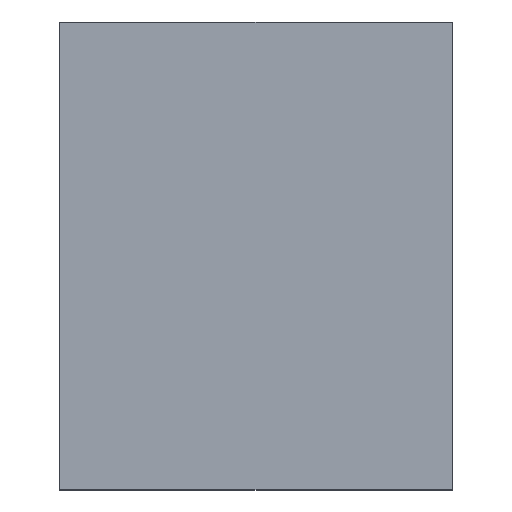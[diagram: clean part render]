
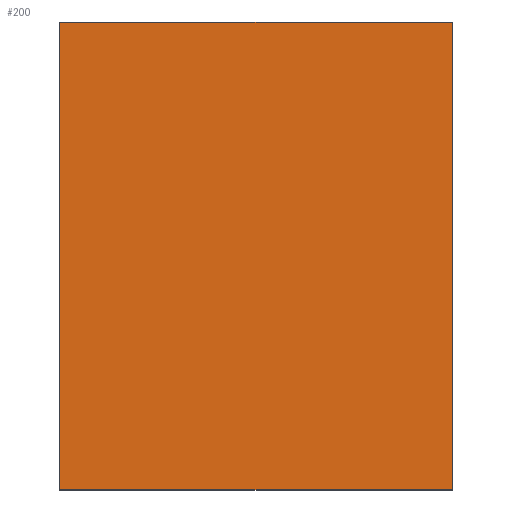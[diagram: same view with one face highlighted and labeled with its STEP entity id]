
A CAD part, top view. The second image highlights one B-rep face of the part: STEP entity #200.
In plain terms, the highlighted planar face has unit normal (0, 0, 1).
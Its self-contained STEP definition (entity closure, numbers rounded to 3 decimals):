
#6 = EDGE_CURVE ( 'NONE', #40, #53, #126, .T. ) ;
#8 = AXIS2_PLACEMENT_3D ( 'NONE', #78, #71, #70 ) ;
#11 = EDGE_CURVE ( 'NONE', #53, #39, #147, .T. ) ;
#12 = EDGE_CURVE ( 'NONE', #42, #40, #135, .T. ) ;
#23 = EDGE_CURVE ( 'NONE', #39, #42, #125, .T. ) ;
#39 = VERTEX_POINT ( 'NONE', #91 ) ;
#40 = VERTEX_POINT ( 'NONE', #105 ) ;
#42 = VERTEX_POINT ( 'NONE', #89 ) ;
#45 = CARTESIAN_POINT ( 'NONE',  ( -201., 0., 6. ) ) ;
#53 = VERTEX_POINT ( 'NONE', #87 ) ;
#70 = DIRECTION ( 'NONE',  ( 0., 1., 0. ) ) ;
#71 = DIRECTION ( 'NONE',  ( 0., 0., -1. ) ) ;
#78 = CARTESIAN_POINT ( 'NONE',  ( -201., 479., 6. ) ) ;
#81 = PLANE ( 'NONE',  #8 ) ;
#87 = CARTESIAN_POINT ( 'NONE',  ( -201., 0., 6. ) ) ;
#89 = CARTESIAN_POINT ( 'NONE',  ( 201., 479., 6. ) ) ;
#91 = CARTESIAN_POINT ( 'NONE',  ( 201., 0., 6. ) ) ;
#103 = DIRECTION ( 'NONE',  ( 0., 1., 0. ) ) ;
#105 = CARTESIAN_POINT ( 'NONE',  ( -201., 479., 6. ) ) ;
#113 = CARTESIAN_POINT ( 'NONE',  ( 201., 0., 6. ) ) ;
#115 = CARTESIAN_POINT ( 'NONE',  ( -201., 479., 6. ) ) ;
#116 = DIRECTION ( 'NONE',  ( 1., 0., 0. ) ) ;
#117 = DIRECTION ( 'NONE',  ( -1., 0., 0. ) ) ;
#119 = CARTESIAN_POINT ( 'NONE',  ( -201., 0., 6. ) ) ;
#120 = DIRECTION ( 'NONE',  ( 0., -1., 0. ) ) ;
#125 = LINE ( 'NONE', #113, #138 ) ;
#126 = LINE ( 'NONE', #119, #166 ) ;
#127 = ORIENTED_EDGE ( 'NONE', *, *, #23, .T. ) ;
#134 = VECTOR ( 'NONE', #117, 1000. ) ;
#135 = LINE ( 'NONE', #115, #134 ) ;
#138 = VECTOR ( 'NONE', #103, 1000. ) ;
#141 = ORIENTED_EDGE ( 'NONE', *, *, #11, .T. ) ;
#147 = LINE ( 'NONE', #45, #165 ) ;
#164 = FACE_OUTER_BOUND ( 'NONE', #169, .T. ) ;
#165 = VECTOR ( 'NONE', #116, 1000. ) ;
#166 = VECTOR ( 'NONE', #120, 1000. ) ;
#168 = ORIENTED_EDGE ( 'NONE', *, *, #12, .T. ) ;
#169 = EDGE_LOOP ( 'NONE', ( #172, #141, #127, #168 ) ) ;
#172 = ORIENTED_EDGE ( 'NONE', *, *, #6, .T. ) ;
#200 = ADVANCED_FACE ( 'NONE', ( #164 ), #81, .F. ) ;
